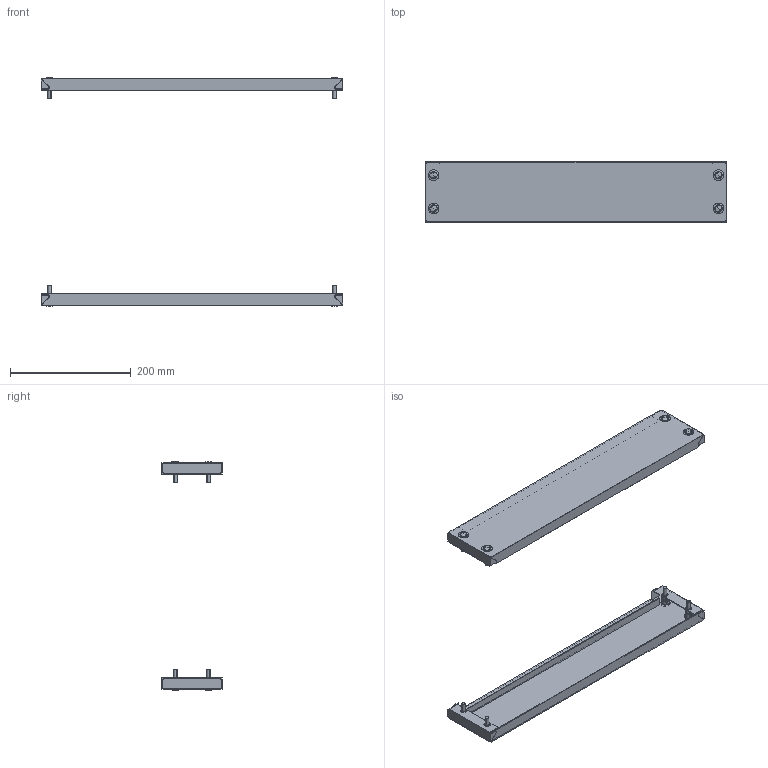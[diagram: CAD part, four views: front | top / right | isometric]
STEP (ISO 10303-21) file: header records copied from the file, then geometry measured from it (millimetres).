
FILE_DESCRIPTION (( 'STEP AP203' ), '1' );
FILE_NAME ('R5FZ5-400.STEP', '2025-06-18T08:33:38', ( '' ), ( '' ), 'SwSTEP 2.0', 'SolidWorks 2022', '' );
FILE_SCHEMA (( 'CONFIG_CONTROL_DESIGN' ));
Length unit declared in the file: millimetre
Products named in the file (5): R5FZ5-400; M6x16 DIN 912 HX cl.4,8 Zinc_stright; RB.1055.00.00.0 simple_-01 (500); 6 DIN 6798 A Zinc; Plug_11.5-13Д18ЧК_-00
Assembly tree (26 placements, depth 2):
  R5FZ5-400
    RB.1055.00.00.0 simple_-01 (500)  x2
    M6x16 DIN 912 HX cl.4,8 Zinc_stright  x8
    6 DIN 6798 A Zinc  x8
    Plug_11.5-13Д18ЧК_-00  x8
Bounding box: 499 x 100.05 x 378.5 mm (x, y, z)
Volume: 250300.8 mm3; surface area: 339943.7 mm2
Topology: 26 solids, 26 shells, 1196 faces, 3456 edges, 2112 vertices
Faces by surface type: plane 700, bspline 208, cylinder 128, cone 96, torus 48, sphere 16
Entity records: 9921 total; most frequent: CARTESIAN_POINT 2626, ORIENTED_EDGE 1352, DIRECTION 1188, EDGE_CURVE 676, LINE 448, VECTOR 448, VERTEX_POINT 444, AXIS2_PLACEMENT_3D 370
